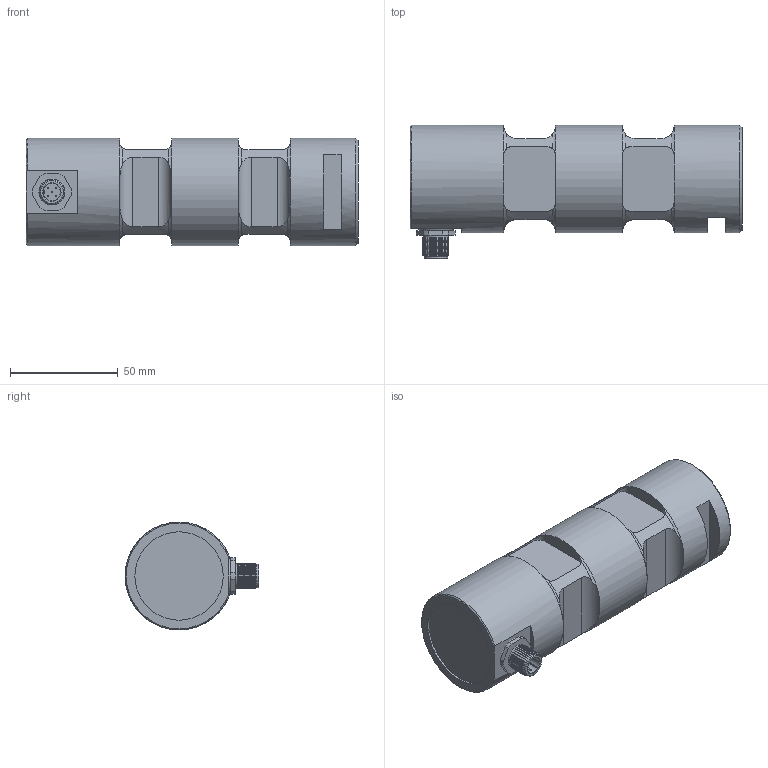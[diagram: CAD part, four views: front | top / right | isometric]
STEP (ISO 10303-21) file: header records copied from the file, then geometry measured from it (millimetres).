
FILE_DESCRIPTION(/* description */ ('Alibre Inc.'),/* implementation_level */ '2;1');
FILE_NAME(/* name */ 'export-0127D7C2-ABA4-4BFC-9154-2B8916D6026B',/* time_stamp */ '2020-07-14T10:00:35+02:00',/* author */ (''),/* organization */ (''),/* preprocessor_version */ 'ST-DEVELOPER v17',/* originating_system */ 'Alibre',/* authorisation */ '');
FILE_SCHEMA (('CONFIG_CONTROL_DESIGN'));
Length unit declared in the file: centimetre
Bounding box: 154 x 62 x 50 mm (x, y, z)
Volume: 399717.9 mm3; surface area: 184238.9 mm2
Topology: 7 solids, 8 shells, 255 faces, 567 edges, 335 vertices
Faces by surface type: cylinder 88, plane 78, cone 71, torus 18
Full cylindrical faces by diameter (mm): 0.5 x10, 8 x2, 10 x1, 11 x1, 11.5 x1, 12 x21, 13 x2, 14.5 x1, 41 x1, 50 x3
Entity records: 6440 total; most frequent: CARTESIAN_POINT 1705, ORIENTED_EDGE 928, DIRECTION 735, EDGE_CURVE 458, EDGE_LOOP 368, FACE_BOUND 368, AXIS2_PLACEMENT_3D 339, VERTEX_POINT 320
